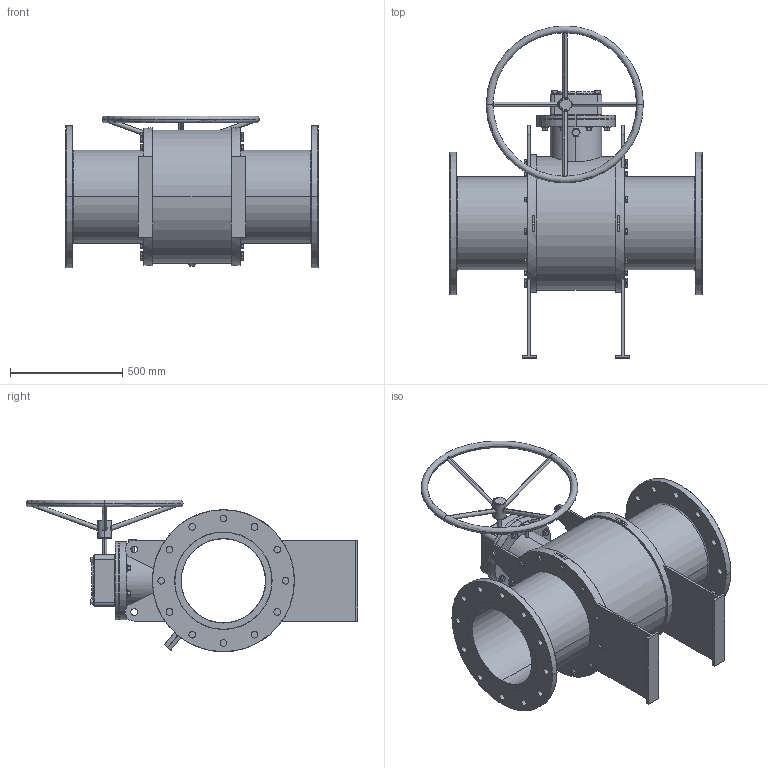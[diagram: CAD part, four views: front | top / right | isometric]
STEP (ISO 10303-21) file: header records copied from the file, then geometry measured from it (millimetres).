
FILE_DESCRIPTION (( 'STEP AP203' ), '1' );
FILE_NAME ('GB2_ANSI_900_16IN_HD.STEP', '2025-10-09T15:11:01', ( '' ), ( '' ), 'SwSTEP 2.0', 'SolidWorks 2025', '' );
FILE_SCHEMA (( 'CONFIG_CONTROL_DESIGN' ));
Length unit declared in the file: millimetre
Products named in the file (3): hex flange screw_am_B18.2.3.4M - Hex flange screw, M16 x 2.0 x 25 --25N; GB2_ANSI_2500_1500_ANSI_900_16IN; GB2_ANSI_900_16IN_HD
Assembly tree (37 placements, depth 2):
  GB2_ANSI_900_16IN_HD
    GB2_ANSI_2500_1500_ANSI_900_16IN
    hex flange screw_am_B18.2.3.4M - Hex flange screw, M16 x 2.0 x 25 --25N  x36
Bounding box: 1130 x 1480 x 677.48 mm (x, y, z)
Volume: 123493705 mm3; surface area: 6013327.8 mm2
Topology: 38 solids, 38 shells, 1605 faces, 3640 edges, 2196 vertices
Faces by surface type: plane 528, cone 392, cylinder 297, bspline 286, torus 96, sphere 6
Entity records: 27427 total; most frequent: CARTESIAN_POINT 12042, ORIENTED_EDGE 2932, DIRECTION 2904, EDGE_CURVE 1466, AXIS2_PLACEMENT_3D 1110, VERTEX_POINT 934, EDGE_LOOP 736, LINE 684
